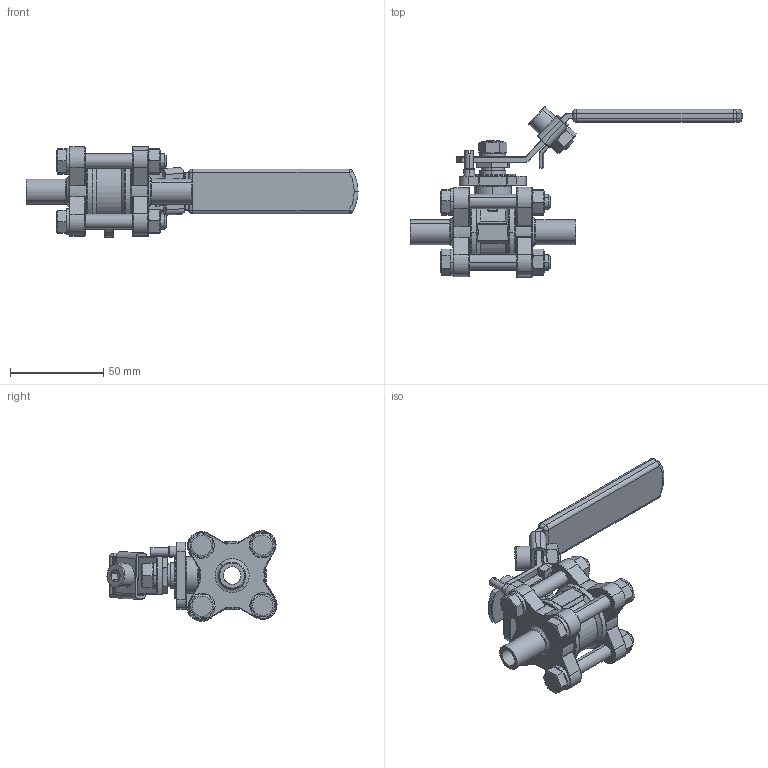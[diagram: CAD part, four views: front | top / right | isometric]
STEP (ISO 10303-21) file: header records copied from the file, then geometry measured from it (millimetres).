
FILE_DESCRIPTION (( 'STEP AP203' ), '1' );
FILE_NAME ('BAV-W-0.5.STEP', '2019-06-17T06:01:49', ( '' ), ( '' ), 'SwSTEP 2.0', 'SolidWorks 2014', '' );
FILE_SCHEMA (( 'CONFIG_CONTROL_DESIGN' ));
Length unit declared in the file: millimetre
Products named in the file (21): 2WAY-HANDLE WASHERS-C-0.5; 2WAY-HANDLE-0.5-.75-3-1; 2WAY-HANDLE-0.5-.75; BAV-W-0.5; 2WAY-SEAT-0.5; 2WAY-CAP-W-0.5; 2WAY-BALL-0.5; 2WAY-BOLT NUT-0.5-.75; 2WAY-HANDLE-0.5-.75-2; 2WAY-STEM PACKINGS-0.5-.75; 2WAY-STEM-0.5; 2WAY-HANDLE NUT-0.5-.75; 2WAY-GASKET-0.5; 2WAY-STOP PIN-0.5-.75; 2WAY-GLAND-0.5-.75; 2WAY-HANDLE-0.5-.75-1; 2WAY-THRUST WASHER-0.5-.75; 2WAY-BOLT-0.5; 2WAY-HANDLE-0.5-.75-3; 2WAY-BOLT WASHERS-0.5-.75; 2WAY-BODY-0.5
Assembly tree (32 placements, depth 2):
  BAV-W-0.5
    2WAY-BODY-0.5
    2WAY-BALL-0.5
    2WAY-GASKET-0.5  x2
    2WAY-SEAT-0.5  x2
    2WAY-BOLT-0.5  x4
    2WAY-BOLT WASHERS-0.5-.75  x4
    2WAY-BOLT NUT-0.5-.75  x4
    2WAY-STEM-0.5
    2WAY-THRUST WASHER-0.5-.75
    2WAY-STEM PACKINGS-0.5-.75
    2WAY-GLAND-0.5-.75
    2WAY-HANDLE NUT-0.5-.75
    2WAY-HANDLE WASHERS-C-0.5
    2WAY-HANDLE-0.5-.75
    2WAY-HANDLE-0.5-.75-2
    2WAY-HANDLE-0.5-.75-3
    2WAY-HANDLE-0.5-.75-3-1
    2WAY-HANDLE-0.5-.75-1
    2WAY-STOP PIN-0.5-.75
    2WAY-CAP-W-0.5  x2
Bounding box: 178.43 x 91.39 x 48.68 mm (x, y, z)
Volume: 99982.8 mm3; surface area: 68545.2 mm2
Topology: 32 solids, 32 shells, 1056 faces, 2374 edges, 1372 vertices
Faces by surface type: cylinder 369, plane 246, torus 193, cone 131, bspline 68, sphere 49
Entity records: 26724 total; most frequent: CARTESIAN_POINT 6050, DIRECTION 4144, ORIENTED_EDGE 3594, EDGE_CURVE 1797, AXIS2_PLACEMENT_3D 1766, VERTEX_POINT 1039, CIRCLE 978, EDGE_LOOP 884
